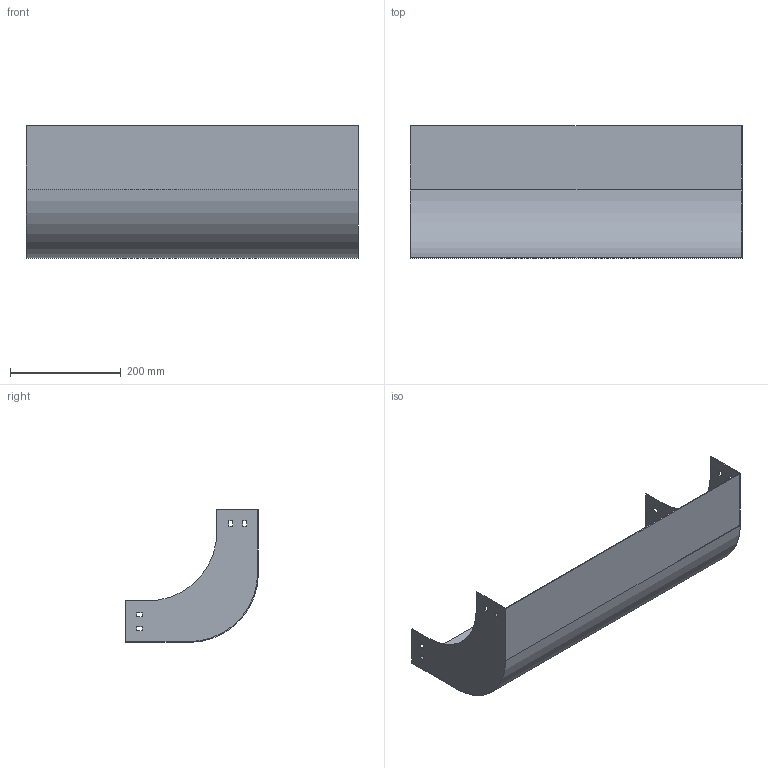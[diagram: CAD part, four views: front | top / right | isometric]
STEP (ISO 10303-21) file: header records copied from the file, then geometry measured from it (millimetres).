
FILE_DESCRIPTION (( 'STEP AP214' ), '1' );
FILE_NAME ('S9_607.step', '2025-07-16T09:28:50', ( '' ), ( '' ), 'SwSTEP 2.0', 'SolidWorks 2023', '' );
FILE_SCHEMA (( 'AUTOMOTIVE_DESIGN' ));
Length unit declared in the file: millimetre
Products named in the file (1): S9_607
Bounding box: 600 x 240 x 240 mm (x, y, z)
Volume: 471026 mm3; surface area: 631516.3 mm2
Topology: 1 solids, 1 shells, 50 faces, 144 edges, 96 vertices
Faces by surface type: plane 46, cylinder 4
Entity records: 1671 total; most frequent: CARTESIAN_POINT 291, ORIENTED_EDGE 288, DIRECTION 254, EDGE_CURVE 144, VECTOR 136, LINE 136, VERTEX_POINT 96, EDGE_LOOP 66
